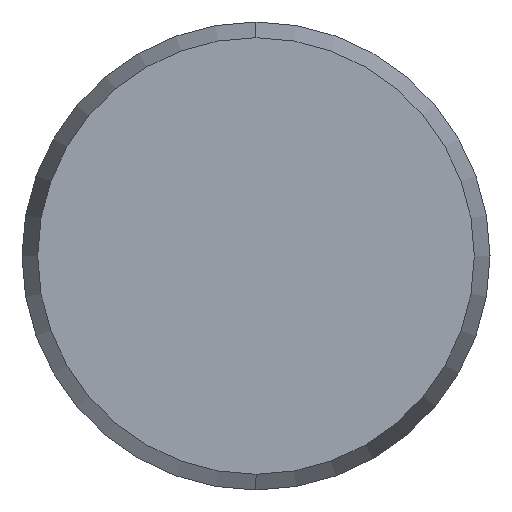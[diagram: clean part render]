
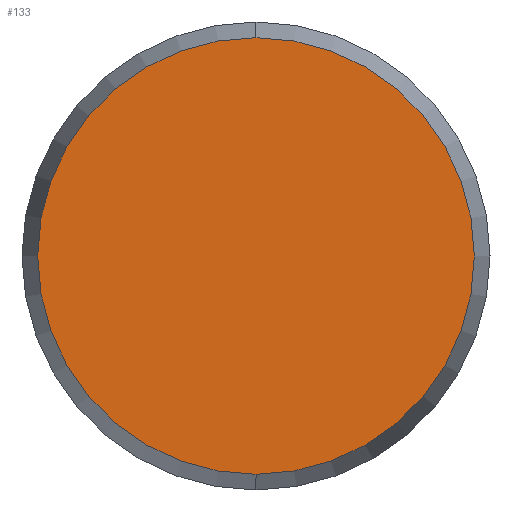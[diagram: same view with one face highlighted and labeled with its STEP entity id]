
A CAD part, left-side view. The second image highlights one B-rep face of the part: STEP entity #133.
In plain terms, the highlighted planar face has unit normal (-1, 0, 0).
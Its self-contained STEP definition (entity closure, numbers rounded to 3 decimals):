
#6 = DIRECTION ( 'NONE',  ( 0., 0., -1. ) ) ;
#51 = CARTESIAN_POINT ( 'NONE',  ( -20., 0., 7.464 ) ) ;
#55 = CARTESIAN_POINT ( 'NONE',  ( -20., 0., -7.464 ) ) ;
#65 = CARTESIAN_POINT ( 'NONE',  ( -20., 0., 0. ) ) ;
#66 = CIRCLE ( 'NONE', #69, 7.464 ) ;
#67 = DIRECTION ( 'NONE',  ( 0., 0., -1. ) ) ;
#68 = DIRECTION ( 'NONE',  ( 1., 0., 0. ) ) ;
#69 = AXIS2_PLACEMENT_3D ( 'NONE', #65, #68, #67 ) ;
#70 = CIRCLE ( 'NONE', #73, 7.464 ) ;
#71 = DIRECTION ( 'NONE',  ( 1., 0., 0. ) ) ;
#72 = CARTESIAN_POINT ( 'NONE',  ( -20., 0., 0. ) ) ;
#73 = AXIS2_PLACEMENT_3D ( 'NONE', #72, #71, #6 ) ;
#76 = EDGE_CURVE ( 'NONE', #111, #106, #66, .T. ) ;
#106 = VERTEX_POINT ( 'NONE', #51 ) ;
#111 = VERTEX_POINT ( 'NONE', #55 ) ;
#113 = EDGE_CURVE ( 'NONE', #106, #111, #70, .T. ) ;
#133 = ADVANCED_FACE ( 'NONE', ( #177 ), #174, .F. ) ;
#136 = ORIENTED_EDGE ( 'NONE', *, *, #76, .F. ) ;
#138 = ORIENTED_EDGE ( 'NONE', *, *, #113, .F. ) ;
#139 = EDGE_LOOP ( 'NONE', ( #138, #136 ) ) ;
#174 = PLANE ( 'NONE',  #180 ) ;
#177 = FACE_OUTER_BOUND ( 'NONE', #139, .T. ) ;
#178 = DIRECTION ( 'NONE',  ( 1., 0., 0. ) ) ;
#179 = CARTESIAN_POINT ( 'NONE',  ( -20., 0., 0. ) ) ;
#180 = AXIS2_PLACEMENT_3D ( 'NONE', #179, #178, #190 ) ;
#190 = DIRECTION ( 'NONE',  ( 0., 0., -1. ) ) ;
